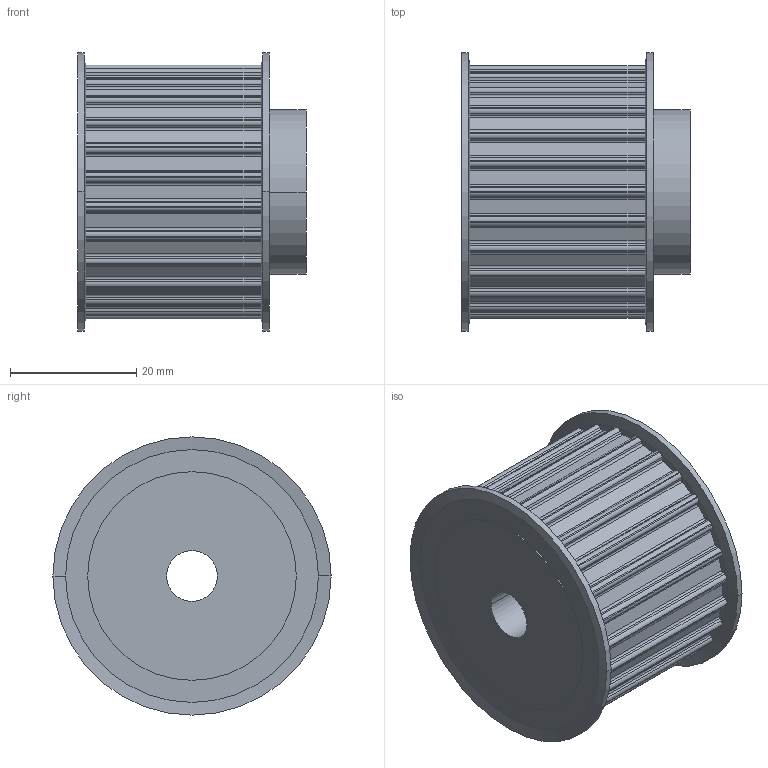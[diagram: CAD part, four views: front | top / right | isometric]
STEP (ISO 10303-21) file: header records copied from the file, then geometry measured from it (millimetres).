
FILE_DESCRIPTION( ( '' ), '1' );
FILE_NAME( 'C:/Users/Stangenbergd/Documents/CAD_Step/1/16642600.stp', '2021-10-19T09:38:08', ( '' ), ( '' ), ' ', ' ', ' ' );
FILE_SCHEMA( ( 'CONFIG_CONTROL_DESIGN' ) );
Length unit declared in the file: millimetre
Products named in the file (1): 1
Bounding box: 36.13 x 44 x 44 mm (x, y, z)
Volume: 37240.6 mm3; surface area: 9503.8 mm2
Topology: 1 solids, 1 shells, 337 faces, 884 edges, 552 vertices
Faces by surface type: plane 187, cylinder 142, cone 8
Entity records: 10550 total; most frequent: DIRECTION 2060, CARTESIAN_POINT 1774, ORIENTED_EDGE 1768, EDGE_CURVE 884, AXIS2_PLACEMENT_3D 838, VERTEX_POINT 552, CIRCLE 500, LINE 384
